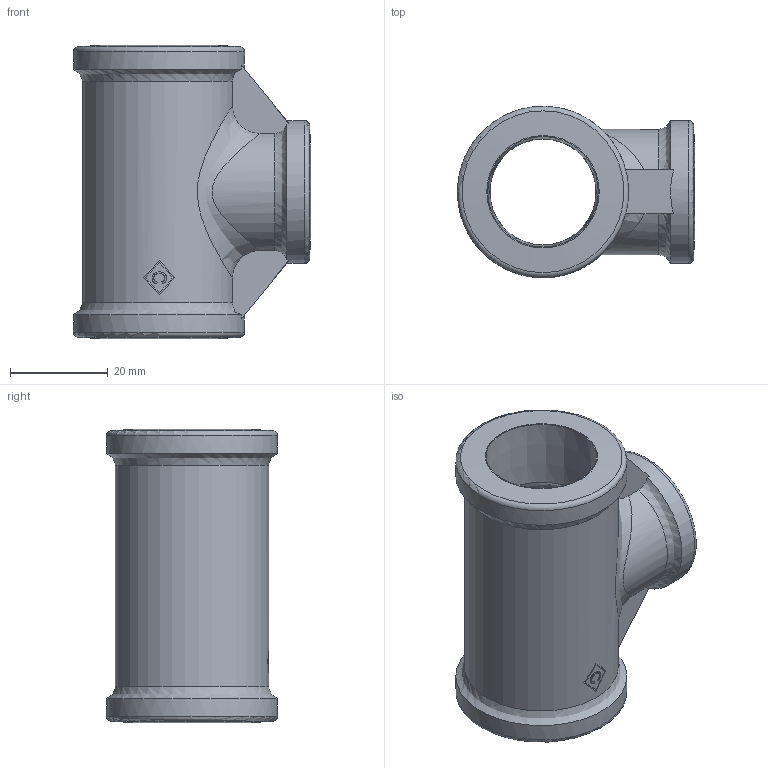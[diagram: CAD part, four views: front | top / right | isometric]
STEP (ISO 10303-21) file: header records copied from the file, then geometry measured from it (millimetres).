
FILE_DESCRIPTION((''),'2;1');
FILE_NAME('P:\Fastrack\53909_CRANE\Crane\Fig.161 Tee\New 0.75 inch\161-0.75x0.50.stp','2009-09-16T11:45:01',('btaylor'),(''),'Autodesk Inventor 2008','Autodesk Inventor 2008','');
FILE_SCHEMA(('AUTOMOTIVE_DESIGN { 1 0 10303 214 1 1 1 1 }'));
Length unit declared in the file: millimetre
Products named in the file (1): 161-0.75x0.50
Bounding box: 48.5 x 34.98 x 60 mm (x, y, z)
Volume: 27004.5 mm3; surface area: 14146.2 mm2
Topology: 1 solids, 1 shells, 65 faces, 170 edges, 109 vertices
Faces by surface type: bspline 25, plane 19, cylinder 12, cone 6, torus 3
Full cylindrical faces by diameter (mm): 29.2 x1, 35 x2
Entity records: 3545 total; most frequent: CARTESIAN_POINT 2144, ORIENTED_EDGE 294, DIRECTION 238, EDGE_CURVE 147, VERTEX_POINT 101, AXIS2_PLACEMENT_3D 100, EDGE_LOOP 86, FACE_OUTER_BOUND 65
